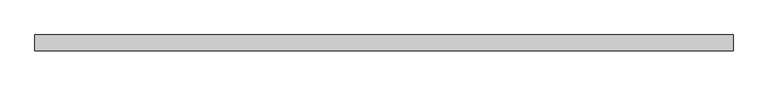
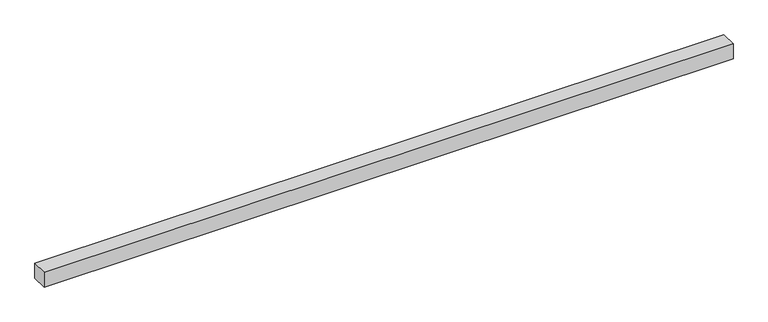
"""IFC4 building model written with IfcOpenShell, lengths in millimetres: proxy geometry, Building-Materials_Other_Daliform_Simple-Family_Accessory_PANEL_for ATLANTIS : PANEL_ATLANTIS-100_diam110_6.5x90x6.5."""

from ifc_helpers import new_model, si_unit, origin, origin_with_axes, place, context, project, spatial, polyline, outline, extrude, source, transform, mapped, element, save


def generic_models_e6750fe2(model_context):
    return source(origin(), model_context, "Body", "SweptSolid", [
        extrude(outline(polyline([(0.0, -65.0), (0.0, 0.0), (2840.0, 0.0), (2840.0, -65.0), (0.0, -65.0)])), origin_with_axes(), (0.0, 0.0, 1.0), 65.0),
    ])


if __name__ == "__main__":
    model = new_model("IFC4")
    model_context = context("Model", 3, world=origin())
    ifc_project = project(units=[si_unit("LENGTHUNIT", "METRE", prefix="MILLI")], contexts=[model_context])
    site = spatial("IfcSite", under=ifc_project)
    building = spatial("IfcBuilding", under=site)
    placement = place(None, origin())
    generic_models_shape = generic_models_e6750fe2(model_context)
    element("IfcBuildingElementProxy", 1, Name="Building-Materials_Other_Daliform_Simple-Family_Accessory_PANEL_for ATLANTIS : PANEL_ATLANTIS-100_diam110_6.5x90x6.5", ObjectType="Building-Materials_Other_Daliform_Simple-Family_Accessory_PANEL_for ATLANTIS : PANEL_ATLANTIS-100_diam110_6.5x90x6.5", at=placement, inside=building, context=model_context, shape_type="MappedRepresentation", body=[
        mapped(generic_models_shape, transform((0.0, 0.0, 0.0), x_axis=(1.0, 0.0, 0.0), y_axis=(0.0, 1.0, 0.0), z_axis=(0.0, 0.0, 1.0))),
    ])
    save(model, "model.ifc")
